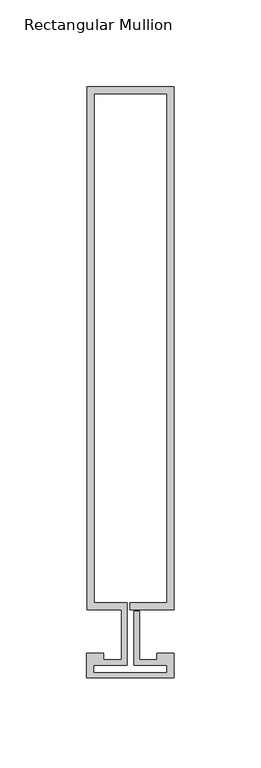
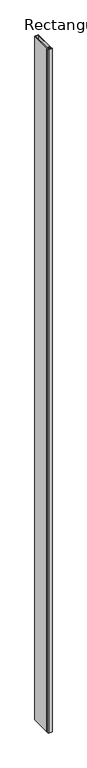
"""IFC4 building model written with IfcOpenShell, lengths in millimetres: member geometry, Rectangular Mullion : Reynaers_CW-50_Mullion-Transom_Vertical_300.5mm_Facecap-02A."""

import ifcopenshell
import ifcopenshell.guid

model = None  # the IFC model being written
_history = None  # IfcOwnerHistory: only IFC2X3 demands one
_inside = {}  # id of a spatial element -> (the spatial element, [elements in it])
_under = {}  # id of a project, library or spatial element -> (it, [spatial elements below it])
_declared = {}  # id of a project -> (the project, [libraries it declares])
_typed = {}  # id of a type object -> (the type object, [elements of that type])
_made_of = {}  # id of a material, layer set ... -> (it, [elements and type objects made of it])


def new_model(schema):
    """Start an empty IFC model of exactly this schema.

    Asked for "IFC4X3", IfcOpenShell would pick the latest addendum, in which some entities
    have other attributes; the version numbers below select the first issue.
    IFC2X3 requires an IfcOwnerHistory on every rooted entity: one is made here for all.
    """
    global model, _history
    if schema == "IFC4X3":
        model = ifcopenshell.file(schema_version=(4, 3, 0, 0))
    else:
        model = ifcopenshell.file(schema=schema)
    _inside.clear()
    _under.clear()
    _declared.clear()
    _typed.clear()
    _made_of.clear()
    _history = None
    if model.schema == "IFC2X3":
        org = make("IfcOrganization", Name="unknown")
        user = make(
            "IfcPersonAndOrganization",
            ThePerson=make("IfcPerson", FamilyName="unknown"),
            TheOrganization=org,
        )
        app = make(
            "IfcApplication",
            ApplicationDeveloper=org,
            Version="unknown",
            ApplicationFullName="unknown",
            ApplicationIdentifier="unknown",
        )
        _history = make(
            "IfcOwnerHistory",
            OwningUser=user,
            OwningApplication=app,
            ChangeAction="ADDED",
            CreationDate=0,
        )
    return model


def make(cls, **values):
    """One entity of the class cls with the attributes given. An attribute that is None is left unset."""
    return model.create_entity(
        cls, **{name: value for name, value in values.items() if value is not None}
    )


def rooted(cls, **values):
    """An entity with a GlobalId (a new one), such as an element, a storey or a relation."""
    return make(cls, GlobalId=ifcopenshell.guid.new(), OwnerHistory=_history, **values)


def si_unit(unit_type, name, prefix=None):
    """IfcSIUnit, for example si_unit("LENGTHUNIT", "METRE", prefix="MILLI")."""
    return make("IfcSIUnit", UnitType=unit_type, Prefix=prefix, Name=name)


def assignment(units):
    """IfcUnitAssignment: the units of a project."""
    return None if units is None else make("IfcUnitAssignment", Units=units)


def point(xyz):
    """IfcCartesianPoint."""
    return None if xyz is None else make("IfcCartesianPoint", Coordinates=xyz)


def direction(xyz):
    """IfcDirection."""
    return None if xyz is None else make("IfcDirection", DirectionRatios=xyz)


def frame(location, z_axis=None, x_axis=None):
    """IfcAxis2Placement3D, a coordinate frame: its origin and axes. An axis left out is left unset."""
    return make(
        "IfcAxis2Placement3D",
        Location=point(location),
        Axis=direction(z_axis),
        RefDirection=direction(x_axis),
    )


def origin():
    """The frame at (0, 0, 0) with its axes left unset."""
    return frame((0.0, 0.0, 0.0))


def place(relative_to, where):
    """IfcLocalPlacement: puts the frame where relative to a parent placement (None: the world)."""
    return make(
        "IfcLocalPlacement", PlacementRelTo=relative_to, RelativePlacement=where
    )


def context(
    kind, dimensions, precision=None, world=None, true_north=None, identifier=None
):
    """IfcGeometricRepresentationContext, for example the 3D "Model" context."""
    return make(
        "IfcGeometricRepresentationContext",
        ContextIdentifier=identifier,
        ContextType=kind,
        CoordinateSpaceDimension=dimensions,
        Precision=precision,
        WorldCoordinateSystem=world,
        TrueNorth=true_north,
    )


def project(units=None, contexts=None):
    """IfcProject with its units and contexts."""
    return rooted(
        "IfcProject",
        Name="project",
        RepresentationContexts=contexts,
        UnitsInContext=assignment(units),
    )


def spatial(cls, under=None, at=None, **own):
    """A site, building, storey or space (cls), placed at a placement, below another one or the project."""
    s = rooted(cls, ObjectPlacement=at, **own)
    if under is not None:
        _under.setdefault(under.id(), (under, []))[1].append(s)
    return s


def polyline(points):
    """IfcPolyline through the points."""
    return make("IfcPolyline", Points=[point(p) for p in points])


def outline(outer, holes=None, kind="AREA"):
    """IfcArbitraryClosedProfileDef: a profile drawn as a closed curve; with holes, ...WithVoids."""
    if holes is None:
        return make("IfcArbitraryClosedProfileDef", ProfileType=kind, OuterCurve=outer)
    return make(
        "IfcArbitraryProfileDefWithVoids",
        ProfileType=kind,
        OuterCurve=outer,
        InnerCurves=holes,
    )


def extrude(swept, where, along, depth):
    """IfcExtrudedAreaSolid: the profile swept, set in the frame where, extruded along a direction by depth."""
    return make(
        "IfcExtrudedAreaSolid",
        SweptArea=swept,
        Position=where,
        ExtrudedDirection=direction(along),
        Depth=depth,
    )


def shape(context_of_items, identifier, shape_type, items):
    """IfcShapeRepresentation: the items that make up one representation, for example the "Body"."""
    return make(
        "IfcShapeRepresentation",
        ContextOfItems=context_of_items,
        RepresentationIdentifier=identifier,
        RepresentationType=shape_type,
        Items=items,
    )


def source(mapping_origin, context_of_items, identifier, shape_type, items):
    """IfcRepresentationMap: a shape defined once, which mapped items show again and again."""
    return make(
        "IfcRepresentationMap",
        MappingOrigin=mapping_origin,
        MappedRepresentation=shape(context_of_items, identifier, shape_type, items),
    )


def transform(
    local_origin,
    x_axis=None,
    y_axis=None,
    z_axis=None,
    scale=None,
    scale2=None,
    scale3=None,
    uniform=True,
):
    """IfcCartesianTransformationOperator3D, or its non-uniform kind. x_axis, y_axis, z_axis: its Axis1, 2, 3."""
    if uniform:
        return make(
            "IfcCartesianTransformationOperator3D",
            Axis1=direction(x_axis),
            Axis2=direction(y_axis),
            LocalOrigin=point(local_origin),
            Scale=scale,
            Axis3=direction(z_axis),
        )
    return make(
        "IfcCartesianTransformationOperator3DnonUniform",
        Axis1=direction(x_axis),
        Axis2=direction(y_axis),
        LocalOrigin=point(local_origin),
        Scale=scale,
        Axis3=direction(z_axis),
        Scale2=scale2,
        Scale3=scale3,
    )


def mapped(mapping_source, mapping_target):
    """IfcMappedItem: shows the shape of a source again, moved by a transform."""
    return make(
        "IfcMappedItem", MappingSource=mapping_source, MappingTarget=mapping_target
    )


def made_of(thing, what):
    """Note that an element or type object is made of a material, layer set ...; save() writes the relation."""
    if what is not None:
        _made_of.setdefault(what.id(), (what, []))[1].append(thing)
    return thing


def element(
    cls,
    number,
    at=None,
    inside=None,
    cuts=None,
    type_object=None,
    material=None,
    context=None,
    identifier="Body",
    shape_type=None,
    held_by="IfcProductDefinitionShape",
    body=None,
    shapes=None,
    **own,
):
    """One element of the class cls, such as IfcWall. Its Tag is "e" and its number.

    at: its placement. inside: the storey or other place that contains it. cuts: it is an
    opening in that element (IfcRelVoidsElement). A single representation is given by context,
    identifier, shape_type and body (its items); several are given by shapes. held_by: the class
    of the entity that holds the representations. save() writes the other relations.
    """
    e = rooted(cls, Tag="e%d" % number, ObjectPlacement=at, **own)
    if body is not None:
        shapes = [shape(context, identifier, shape_type, body)]
    if shapes is not None:
        e.Representation = make(held_by, Representations=shapes)
    if inside is not None:
        _inside.setdefault(inside.id(), (inside, []))[1].append(e)
    if cuts is not None:
        rooted(
            "IfcRelVoidsElement", RelatingBuildingElement=cuts, RelatedOpeningElement=e
        )
    if type_object is not None:
        _typed.setdefault(type_object.id(), (type_object, []))[1].append(e)
    return made_of(e, material)


def aggregate(whole, parts):
    """IfcRelAggregates: a whole, such as a stair, and the parts it consists of."""
    return rooted("IfcRelAggregates", RelatingObject=whole, RelatedObjects=parts)


def save(model, path):
    """Write the relations noted so far, then the file.

    IfcRelAggregates (storeys below a building ...), IfcRelContainedInSpatialStructure (elements
    in a storey), IfcRelDefinesByType, IfcRelAssociatesMaterial and IfcRelDeclares: one each for
    every whole, place, type object, material and project.
    """
    for whole, parts in _under.values():
        aggregate(whole, parts)
    for where, things in _inside.values():
        rooted(
            "IfcRelContainedInSpatialStructure",
            RelatedElements=things,
            RelatingStructure=where,
        )
    for kind, things in _typed.values():
        rooted("IfcRelDefinesByType", RelatedObjects=things, RelatingType=kind)
    for what, things in _made_of.values():
        rooted("IfcRelAssociatesMaterial", RelatedObjects=things, RelatingMaterial=what)
    for by, libraries in _declared.values():
        rooted("IfcRelDeclares", RelatingContext=by, RelatedDefinitions=libraries)
    model.write(path)


def rectangular_mullion_144b9211(model_context):
    return source(origin(), model_context, "Body", "SweptSolid", [
        extrude(outline(polyline([(-24.8004059, 313.0), (25.1995941, 313.0), (25.1995941, 12.5), (0.0, 12.5), (0.0, 16.5), (21.1995941, 16.5), (21.1995941, 309.0), (-20.8004059, 309.0), (-20.8004059, 16.5), (-1.9004059, 16.5), (-1.9004059, -19.5), (-20.994845, -19.5), (-20.994845, -23.7191338), (21.1995941, -23.7191338), (21.1995941, -19.5), (2.2995941, -19.5), (2.2995941, 11.5), (5.2995941, 11.5), (5.2995941, -16.5), (15.2996495, -16.5), (15.2996495, -12.5), (25.1995941, -12.5), (25.1995941, -26.8), (-24.994845, -26.8), (-24.994845, -12.5), (-15.2996495, -12.5), (-15.2996495, -16.5), (-4.9004059, -16.5), (-4.9004059, 12.5), (-24.8004059, 12.5), (-24.8004059, 313.0)])), frame((0.0, 0.0, -10400.0), z_axis=(0.0, 0.0, 1.0), x_axis=(1.0, 0.0, 0.0)), (0.0, 0.0, 1.0), 10400.0),
    ])


if __name__ == "__main__":
    model = new_model("IFC4")
    model_context = context("Model", 3, world=origin())
    ifc_project = project(units=[si_unit("LENGTHUNIT", "METRE", prefix="MILLI")], contexts=[model_context])
    site = spatial("IfcSite", under=ifc_project)
    building = spatial("IfcBuilding", under=site)
    placement = place(None, origin())
    rectangular_mullion_shape = rectangular_mullion_144b9211(model_context)
    element("IfcMember", 1, ObjectType="Rectangular Mullion : Reynaers_CW-50_Mullion-Transom_Vertical_300.5mm_Facecap-02A", at=placement, inside=building, context=model_context, shape_type="MappedRepresentation", body=[
        mapped(rectangular_mullion_shape, transform((0.0, 0.0, 0.0), x_axis=(1.0, 0.0, 0.0), y_axis=(0.0, 1.0, 0.0), z_axis=(0.0, 0.0, 1.0))),
    ])
    save(model, "model.ifc")
